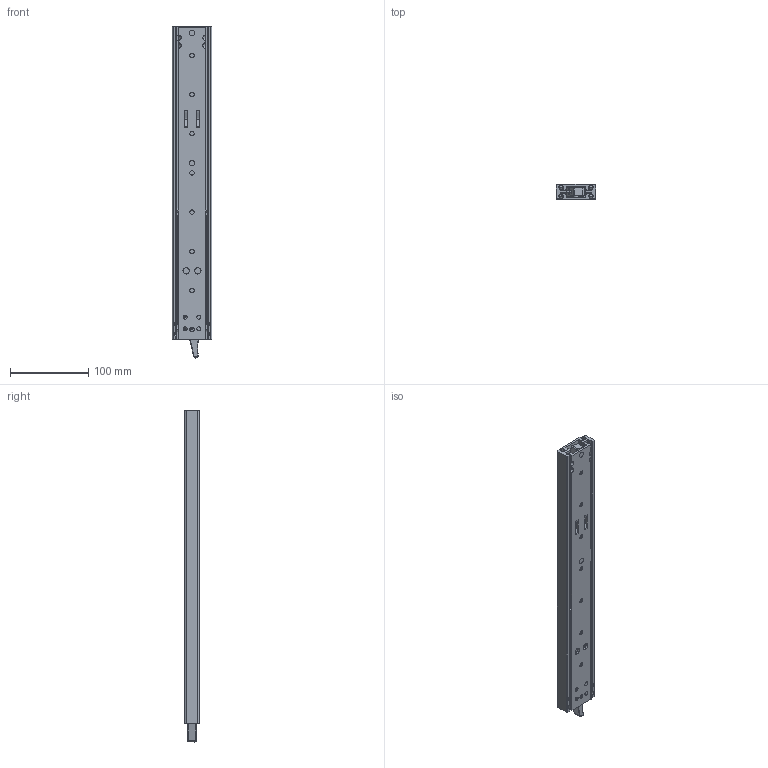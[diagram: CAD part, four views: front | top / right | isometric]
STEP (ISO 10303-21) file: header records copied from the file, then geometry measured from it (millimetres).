
FILE_DESCRIPTION (( 'STEP AP214' ), '1' );
FILE_NAME ('230-400-closed.STEP', '2024-08-20T11:25:09', ( '' ), ( '' ), 'SwSTEP 2.0', 'SolidWorks 2024', '' );
FILE_SCHEMA (( 'AUTOMOTIVE_DESIGN' ));
Length unit declared in the file: millimetre
Products named in the file (12): 230-400-closed; 61_12275_4.STEP_Part208; 370_002_070_18.STEP_Part210; 61_12279_06_2.STEP_Part203; 61_12278_08_2.STEP_Part213; 61_12280_06_Beam Assembled - Stop Raises _2.STEP_Part204; 400_000_004_18.STEP_Part212; 301_000_008_Fitted_18.STEP_Part207; 61_12285_06_closed.STEP_Assem37; 61_13331_Pin Fitted_18.STEP_Part205; 61_12274_18.STEP_Part209; 61_12282_18.STEP_Part206
Assembly tree (27 placements, depth 3):
  230-400-closed
    61_12285_06_closed.STEP_Assem37
      61_12279_06_2.STEP_Part203
      61_12280_06_Beam Assembled - Stop Raises _2.STEP_Part204  x2
      61_13331_Pin Fitted_18.STEP_Part205  x4
      61_12282_18.STEP_Part206
      301_000_008_Fitted_18.STEP_Part207  x2
      61_12275_4.STEP_Part208
      61_12274_18.STEP_Part209
      370_002_070_18.STEP_Part210  x2
      400_000_004_18.STEP_Part212  x8
      61_12278_08_2.STEP_Part213  x4
Bounding box: 50.7 x 19.75 x 423.69 mm (x, y, z)
Volume: 231406.4 mm3; surface area: 160761.2 mm2
Topology: 26 solids, 26 shells, 1256 faces, 3241 edges, 2015 vertices
Faces by surface type: cylinder 548, plane 281, sphere 225, cone 80, torus 77, bspline 45
Entity records: 28449 total; most frequent: CARTESIAN_POINT 8725, DIRECTION 4244, ORIENTED_EDGE 4006, EDGE_CURVE 2003, AXIS2_PLACEMENT_3D 1698, VERTEX_POINT 1238, CIRCLE 926, EDGE_LOOP 895
